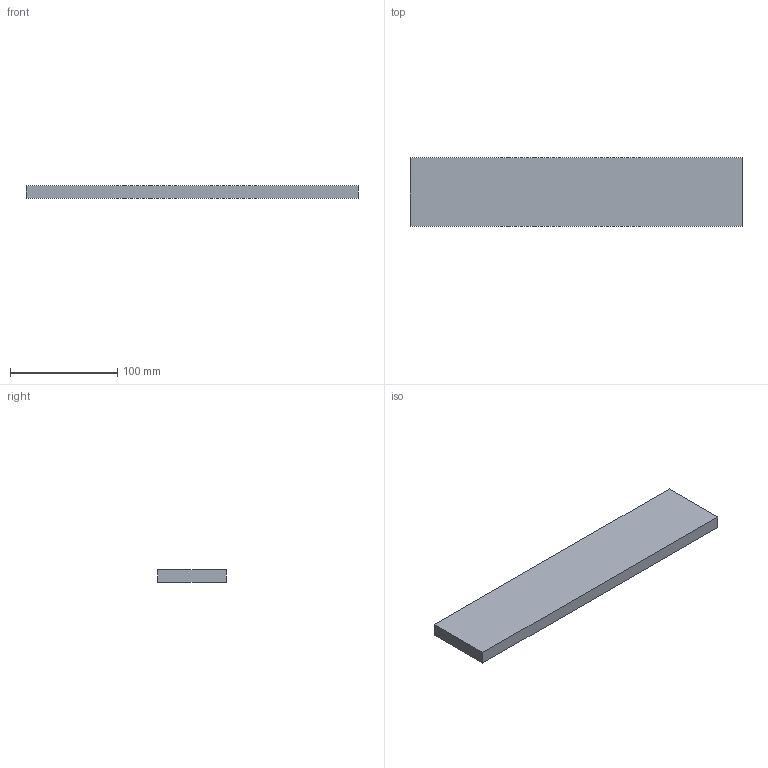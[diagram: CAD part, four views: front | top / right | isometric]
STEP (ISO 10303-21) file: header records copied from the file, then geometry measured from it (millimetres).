
FILE_DESCRIPTION(('Open CASCADE Model'),'2;1');
FILE_NAME('Open CASCADE Shape Model','2026-10-04T01:02:30',('Author'),( 'Open CASCADE'),'Open CASCADE STEP processor 8.0','Open CASCADE 8.0' ,'Unknown');
FILE_SCHEMA(('AUTOMOTIVE_DESIGN { 1 0 10303 214 1 1 1 1 }'));
Length unit declared in the file: millimetre
Products named in the file (1): Open CASCADE STEP translator 8.0 219
Bounding box: 310 x 64 x 12 mm (x, y, z)
Volume: 238080 mm3; surface area: 48656 mm2
Topology: 1 solids, 1 shells, 6 faces, 12 edges, 8 vertices
Faces by surface type: plane 6
Entity records: 322 total; most frequent: CARTESIAN_POINT 51, DIRECTION 50, LINE 36, VECTOR 36, ORIENTED_EDGE 24, PCURVE 24, DEFINITIONAL_REPRESENTATION 24, EDGE_CURVE 12
